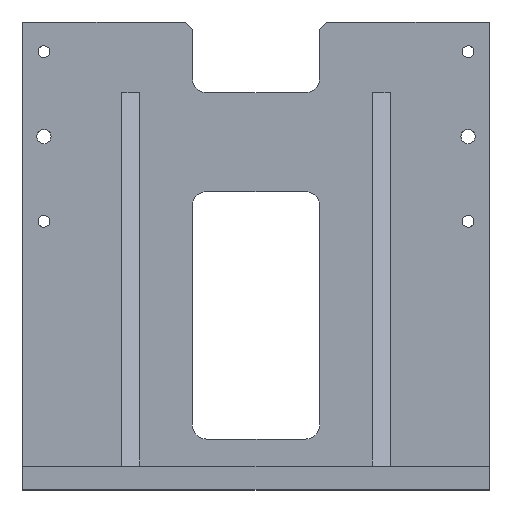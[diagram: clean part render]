
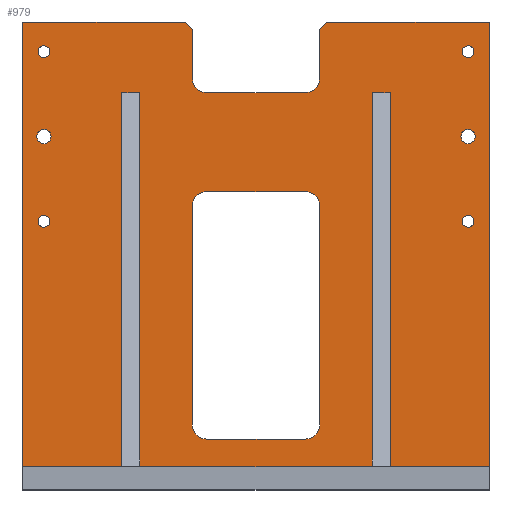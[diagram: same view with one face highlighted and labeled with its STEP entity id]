
A CAD part, top view. The second image highlights one B-rep face of the part: STEP entity #979.
In plain terms, the highlighted planar face has unit normal (0, 0, 1).
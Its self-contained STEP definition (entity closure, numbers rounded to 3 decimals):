
#19=FACE_BOUND($,#149,.T.);
#20=FACE_BOUND($,#150,.T.);
#21=FACE_BOUND($,#151,.T.);
#22=FACE_BOUND($,#152,.T.);
#23=FACE_BOUND($,#153,.T.);
#24=FACE_BOUND($,#154,.T.);
#25=FACE_BOUND($,#155,.T.);
#26=FACE_BOUND($,#156,.T.);
#65=PLANE($,#1047);
#149=EDGE_LOOP($,(#739,#740,#741,#742,#743,#744,#745,#746));
#150=EDGE_LOOP($,(#747,#748,#749,#750,#751,#752,#753,#754,#755,#756,#757,
#758,#759,#760,#761,#762,#763,#764,#765,#766));
#151=EDGE_LOOP($,(#767));
#152=EDGE_LOOP($,(#768));
#153=EDGE_LOOP($,(#769));
#154=EDGE_LOOP($,(#770));
#155=EDGE_LOOP($,(#771));
#156=EDGE_LOOP($,(#772));
#215=LINE($,#1371,#305);
#218=LINE($,#1382,#308);
#223=LINE($,#1395,#313);
#225=LINE($,#1403,#315);
#244=LINE($,#1458,#334);
#248=LINE($,#1464,#338);
#250=LINE($,#1469,#340);
#252=LINE($,#1473,#342);
#256=LINE($,#1484,#346);
#257=LINE($,#1487,#347);
#258=LINE($,#1489,#348);
#259=LINE($,#1491,#349);
#260=LINE($,#1493,#350);
#261=LINE($,#1495,#351);
#262=LINE($,#1497,#352);
#263=LINE($,#1499,#353);
#264=LINE($,#1501,#354);
#265=LINE($,#1503,#355);
#266=LINE($,#1505,#356);
#267=LINE($,#1507,#357);
#268=LINE($,#1509,#358);
#269=LINE($,#1510,#359);
#305=VECTOR($,#1110,155.);
#308=VECTOR($,#1121,70.);
#313=VECTOR($,#1134,70.);
#315=VECTOR($,#1144,155.);
#334=VECTOR($,#1187,7.071);
#338=VECTOR($,#1193,35.);
#340=VECTOR($,#1197,7.071);
#342=VECTOR($,#1201,35.);
#346=VECTOR($,#1215,70.);
#347=VECTOR($,#1218,115.);
#348=VECTOR($,#1219,315.);
#349=VECTOR($,#1220,70.);
#350=VECTOR($,#1221,265.);
#351=VECTOR($,#1222,12.7);
#352=VECTOR($,#1223,265.);
#353=VECTOR($,#1224,164.6);
#354=VECTOR($,#1225,265.);
#355=VECTOR($,#1226,12.7);
#356=VECTOR($,#1227,265.);
#357=VECTOR($,#1228,70.);
#358=VECTOR($,#1229,315.);
#359=VECTOR($,#1230,115.);
#390=CIRCLE($,#1013,10.);
#392=CIRCLE($,#1017,10.);
#394=CIRCLE($,#1021,10.);
#396=CIRCLE($,#1025,10.);
#405=CIRCLE($,#1043,10.);
#406=CIRCLE($,#1045,10.);
#407=CIRCLE($,#1048,5.);
#408=CIRCLE($,#1049,5.);
#409=CIRCLE($,#1050,4.188);
#410=CIRCLE($,#1051,4.188);
#411=CIRCLE($,#1052,4.188);
#412=CIRCLE($,#1053,4.188);
#427=VERTEX_POINT($,#1357);
#428=VERTEX_POINT($,#1359);
#432=VERTEX_POINT($,#1369);
#435=VERTEX_POINT($,#1376);
#436=VERTEX_POINT($,#1378);
#438=VERTEX_POINT($,#1387);
#440=VERTEX_POINT($,#1393);
#442=VERTEX_POINT($,#1399);
#465=VERTEX_POINT($,#1456);
#466=VERTEX_POINT($,#1457);
#467=VERTEX_POINT($,#1462);
#468=VERTEX_POINT($,#1466);
#469=VERTEX_POINT($,#1468);
#470=VERTEX_POINT($,#1472);
#471=VERTEX_POINT($,#1476);
#472=VERTEX_POINT($,#1480);
#473=VERTEX_POINT($,#1486);
#474=VERTEX_POINT($,#1488);
#475=VERTEX_POINT($,#1490);
#476=VERTEX_POINT($,#1492);
#477=VERTEX_POINT($,#1494);
#478=VERTEX_POINT($,#1496);
#479=VERTEX_POINT($,#1498);
#480=VERTEX_POINT($,#1500);
#481=VERTEX_POINT($,#1502);
#482=VERTEX_POINT($,#1504);
#483=VERTEX_POINT($,#1506);
#484=VERTEX_POINT($,#1508);
#485=VERTEX_POINT($,#1511);
#486=VERTEX_POINT($,#1513);
#487=VERTEX_POINT($,#1515);
#488=VERTEX_POINT($,#1517);
#489=VERTEX_POINT($,#1519);
#490=VERTEX_POINT($,#1521);
#519=EDGE_CURVE($,#427,#428,#390,.T.);
#525=EDGE_CURVE($,#427,#432,#215,.T.);
#528=EDGE_CURVE($,#435,#436,#392,.T.);
#530=EDGE_CURVE($,#435,#428,#218,.T.);
#534=EDGE_CURVE($,#438,#432,#394,.T.);
#537=EDGE_CURVE($,#438,#440,#223,.T.);
#540=EDGE_CURVE($,#442,#440,#396,.T.);
#541=EDGE_CURVE($,#442,#436,#225,.T.);
#568=EDGE_CURVE($,#465,#466,#244,.T.);
#572=EDGE_CURVE($,#465,#467,#248,.T.);
#574=EDGE_CURVE($,#468,#469,#250,.T.);
#576=EDGE_CURVE($,#470,#469,#252,.T.);
#578=EDGE_CURVE($,#471,#467,#405,.T.);
#580=EDGE_CURVE($,#470,#472,#406,.T.);
#582=EDGE_CURVE($,#471,#472,#256,.T.);
#583=EDGE_CURVE($,#468,#473,#257,.T.);
#584=EDGE_CURVE($,#473,#474,#258,.T.);
#585=EDGE_CURVE($,#474,#475,#259,.T.);
#586=EDGE_CURVE($,#475,#476,#260,.T.);
#587=EDGE_CURVE($,#476,#477,#261,.T.);
#588=EDGE_CURVE($,#477,#478,#262,.T.);
#589=EDGE_CURVE($,#478,#479,#263,.T.);
#590=EDGE_CURVE($,#479,#480,#264,.T.);
#591=EDGE_CURVE($,#480,#481,#265,.T.);
#592=EDGE_CURVE($,#481,#482,#266,.T.);
#593=EDGE_CURVE($,#482,#483,#267,.T.);
#594=EDGE_CURVE($,#483,#484,#268,.T.);
#595=EDGE_CURVE($,#484,#466,#269,.T.);
#596=EDGE_CURVE($,#485,#485,#407,.T.);
#597=EDGE_CURVE($,#486,#486,#408,.T.);
#598=EDGE_CURVE($,#487,#487,#409,.T.);
#599=EDGE_CURVE($,#488,#488,#410,.T.);
#600=EDGE_CURVE($,#489,#489,#411,.T.);
#601=EDGE_CURVE($,#490,#490,#412,.T.);
#739=ORIENTED_EDGE($,*,*,#525,.T.);
#740=ORIENTED_EDGE($,*,*,#534,.F.);
#741=ORIENTED_EDGE($,*,*,#537,.T.);
#742=ORIENTED_EDGE($,*,*,#540,.F.);
#743=ORIENTED_EDGE($,*,*,#541,.T.);
#744=ORIENTED_EDGE($,*,*,#528,.F.);
#745=ORIENTED_EDGE($,*,*,#530,.T.);
#746=ORIENTED_EDGE($,*,*,#519,.F.);
#747=ORIENTED_EDGE($,*,*,#568,.F.);
#748=ORIENTED_EDGE($,*,*,#572,.T.);
#749=ORIENTED_EDGE($,*,*,#578,.F.);
#750=ORIENTED_EDGE($,*,*,#582,.T.);
#751=ORIENTED_EDGE($,*,*,#580,.F.);
#752=ORIENTED_EDGE($,*,*,#576,.T.);
#753=ORIENTED_EDGE($,*,*,#574,.F.);
#754=ORIENTED_EDGE($,*,*,#583,.T.);
#755=ORIENTED_EDGE($,*,*,#584,.T.);
#756=ORIENTED_EDGE($,*,*,#585,.T.);
#757=ORIENTED_EDGE($,*,*,#586,.T.);
#758=ORIENTED_EDGE($,*,*,#587,.T.);
#759=ORIENTED_EDGE($,*,*,#588,.T.);
#760=ORIENTED_EDGE($,*,*,#589,.T.);
#761=ORIENTED_EDGE($,*,*,#590,.T.);
#762=ORIENTED_EDGE($,*,*,#591,.T.);
#763=ORIENTED_EDGE($,*,*,#592,.T.);
#764=ORIENTED_EDGE($,*,*,#593,.T.);
#765=ORIENTED_EDGE($,*,*,#594,.T.);
#766=ORIENTED_EDGE($,*,*,#595,.T.);
#767=ORIENTED_EDGE($,*,*,#596,.T.);
#768=ORIENTED_EDGE($,*,*,#597,.T.);
#769=ORIENTED_EDGE($,*,*,#598,.T.);
#770=ORIENTED_EDGE($,*,*,#599,.T.);
#771=ORIENTED_EDGE($,*,*,#600,.T.);
#772=ORIENTED_EDGE($,*,*,#601,.T.);
#979=ADVANCED_FACE($,(#19,#20,#21,#22,#23,#24,#25,#26),#65,.T.);
#1013=AXIS2_PLACEMENT_3D($,#1360,#1101,#1102);
#1017=AXIS2_PLACEMENT_3D($,#1379,#1116,#1117);
#1021=AXIS2_PLACEMENT_3D($,#1389,#1128,#1129);
#1025=AXIS2_PLACEMENT_3D($,#1401,#1140,#1141);
#1043=AXIS2_PLACEMENT_3D($,#1477,#1205,#1206);
#1045=AXIS2_PLACEMENT_3D($,#1481,#1210,#1211);
#1047=AXIS2_PLACEMENT_3D($,#1485,#1216,#1217);
#1048=AXIS2_PLACEMENT_3D($,#1512,#1231,#1232);
#1049=AXIS2_PLACEMENT_3D($,#1514,#1233,#1234);
#1050=AXIS2_PLACEMENT_3D($,#1516,#1235,#1236);
#1051=AXIS2_PLACEMENT_3D($,#1518,#1237,#1238);
#1052=AXIS2_PLACEMENT_3D($,#1520,#1239,#1240);
#1053=AXIS2_PLACEMENT_3D($,#1522,#1241,#1242);
#1101=DIRECTION('center_axis',(0.,0.,1.));
#1102=DIRECTION('ref_axis',(-0.707,-0.707,0.));
#1110=DIRECTION($,(0.,1.,0.));
#1116=DIRECTION('center_axis',(0.,0.,1.));
#1117=DIRECTION('ref_axis',(0.707,-0.707,0.));
#1121=DIRECTION($,(-1.,0.,0.));
#1128=DIRECTION('center_axis',(0.,0.,1.));
#1129=DIRECTION('ref_axis',(-0.707,0.707,0.));
#1134=DIRECTION($,(1.,0.,0.));
#1140=DIRECTION('center_axis',(0.,0.,1.));
#1141=DIRECTION('ref_axis',(0.707,0.707,0.));
#1144=DIRECTION($,(0.,-1.,0.));
#1187=DIRECTION($,(0.707,0.707,0.));
#1193=DIRECTION($,(0.,-1.,0.));
#1197=DIRECTION($,(0.707,-0.707,0.));
#1201=DIRECTION($,(0.,1.,0.));
#1205=DIRECTION('center_axis',(0.,0.,1.));
#1206=DIRECTION('ref_axis',(0.707,-0.707,0.));
#1210=DIRECTION('center_axis',(0.,0.,1.));
#1211=DIRECTION('ref_axis',(-0.707,-0.707,0.));
#1215=DIRECTION($,(-1.,0.,0.));
#1216=DIRECTION('center_axis',(0.,0.,1.));
#1217=DIRECTION('ref_axis',(1.,0.,0.));
#1218=DIRECTION($,(-1.,0.,0.));
#1219=DIRECTION($,(0.,-1.,0.));
#1220=DIRECTION($,(1.,0.,0.));
#1221=DIRECTION($,(0.,1.,0.));
#1222=DIRECTION($,(1.,0.,0.));
#1223=DIRECTION($,(0.,-1.,0.));
#1224=DIRECTION($,(1.,0.,0.));
#1225=DIRECTION($,(0.,1.,0.));
#1226=DIRECTION($,(1.,0.,0.));
#1227=DIRECTION($,(0.,-1.,0.));
#1228=DIRECTION($,(1.,0.,0.));
#1229=DIRECTION($,(0.,1.,0.));
#1230=DIRECTION($,(-1.,0.,0.));
#1231=DIRECTION('center_axis',(0.,0.,-1.));
#1232=DIRECTION('ref_axis',(-1.,0.,0.));
#1233=DIRECTION('center_axis',(0.,0.,-1.));
#1234=DIRECTION('ref_axis',(-1.,0.,0.));
#1235=DIRECTION('center_axis',(0.,0.,-1.));
#1236=DIRECTION('ref_axis',(-1.,0.,0.));
#1237=DIRECTION('center_axis',(0.,0.,-1.));
#1238=DIRECTION('ref_axis',(-1.,0.,0.));
#1239=DIRECTION('center_axis',(0.,0.,-1.));
#1240=DIRECTION('ref_axis',(-1.,0.,0.));
#1241=DIRECTION('center_axis',(0.,0.,-1.));
#1242=DIRECTION('ref_axis',(-1.,0.,0.));
#1357=CARTESIAN_POINT('',(-45.,-127.5,19.05));
#1359=CARTESIAN_POINT('',(-35.,-137.5,19.05));
#1360=CARTESIAN_POINT('Origin',(-35.,-127.5,19.05));
#1369=CARTESIAN_POINT('',(-45.,27.5,19.05));
#1371=CARTESIAN_POINT($,(-45.,18.75,19.05));
#1376=CARTESIAN_POINT('',(35.,-137.5,19.05));
#1378=CARTESIAN_POINT('',(45.,-127.5,19.05));
#1379=CARTESIAN_POINT('Origin',(35.,-127.5,19.05));
#1382=CARTESIAN_POINT($,(-22.5,-137.5,19.05));
#1387=CARTESIAN_POINT('',(-35.,37.5,19.05));
#1389=CARTESIAN_POINT('Origin',(-35.,27.5,19.05));
#1393=CARTESIAN_POINT('',(35.,37.5,19.05));
#1395=CARTESIAN_POINT($,(22.5,37.5,19.05));
#1399=CARTESIAN_POINT('',(45.,27.5,19.05));
#1401=CARTESIAN_POINT('Origin',(35.,27.5,19.05));
#1403=CARTESIAN_POINT($,(45.,-68.75,19.05));
#1456=CARTESIAN_POINT('',(45.,152.5,19.05));
#1457=CARTESIAN_POINT('',(50.,157.5,19.05));
#1458=CARTESIAN_POINT($,(-3.125,104.375,19.05));
#1462=CARTESIAN_POINT('',(45.,117.5,19.05));
#1464=CARTESIAN_POINT($,(45.,78.75,19.05));
#1466=CARTESIAN_POINT('',(-50.,157.5,19.05));
#1468=CARTESIAN_POINT('',(-45.,152.5,19.05));
#1469=CARTESIAN_POINT($,(3.125,104.375,19.05));
#1472=CARTESIAN_POINT('',(-45.,117.5,19.05));
#1473=CARTESIAN_POINT($,(-45.,53.75,19.05));
#1476=CARTESIAN_POINT('',(35.,107.5,19.05));
#1477=CARTESIAN_POINT('Origin',(35.,117.5,19.05));
#1480=CARTESIAN_POINT('',(-35.,107.5,19.05));
#1481=CARTESIAN_POINT('Origin',(-35.,117.5,19.05));
#1484=CARTESIAN_POINT($,(22.5,107.5,19.05));
#1485=CARTESIAN_POINT('Origin',(0.,0.,
19.05));
#1486=CARTESIAN_POINT('',(-165.,157.5,19.05));
#1487=CARTESIAN_POINT($,(-165.,157.5,19.05));
#1488=CARTESIAN_POINT('',(-165.,-157.5,19.05));
#1489=CARTESIAN_POINT($,(-165.,-157.5,19.05));
#1490=CARTESIAN_POINT('',(-95.,-157.5,19.05));
#1491=CARTESIAN_POINT($,(165.,-157.5,19.05));
#1492=CARTESIAN_POINT('',(-95.,107.5,19.05));
#1493=CARTESIAN_POINT($,(-95.,-24.767,19.05));
#1494=CARTESIAN_POINT('',(-82.3,107.5,19.05));
#1495=CARTESIAN_POINT($,(-47.5,107.5,19.05));
#1496=CARTESIAN_POINT('',(-82.3,-157.5,19.05));
#1497=CARTESIAN_POINT($,(-82.3,-24.767,19.05));
#1498=CARTESIAN_POINT('',(82.3,-157.5,19.05));
#1499=CARTESIAN_POINT($,(165.,-157.5,19.05));
#1500=CARTESIAN_POINT('',(82.3,107.5,19.05));
#1501=CARTESIAN_POINT($,(82.3,-24.767,19.05));
#1502=CARTESIAN_POINT('',(95.,107.5,19.05));
#1503=CARTESIAN_POINT($,(47.5,107.5,19.05));
#1504=CARTESIAN_POINT('',(95.,-157.5,19.05));
#1505=CARTESIAN_POINT($,(95.,-24.767,19.05));
#1506=CARTESIAN_POINT('',(165.,-157.5,19.05));
#1507=CARTESIAN_POINT($,(165.,-157.5,19.05));
#1508=CARTESIAN_POINT('',(165.,157.5,19.05));
#1509=CARTESIAN_POINT($,(165.,157.5,19.05));
#1510=CARTESIAN_POINT($,(-165.,157.5,19.05));
#1511=CARTESIAN_POINT('',(-145.,76.5,19.05));
#1512=CARTESIAN_POINT('Origin',(-150.,76.5,19.05));
#1513=CARTESIAN_POINT('',(155.,76.5,19.05));
#1514=CARTESIAN_POINT('Origin',(150.,76.5,19.05));
#1515=CARTESIAN_POINT('',(-145.812,16.5,19.05));
#1516=CARTESIAN_POINT('Origin',(-150.,16.5,19.05));
#1517=CARTESIAN_POINT('',(154.188,136.5,19.05));
#1518=CARTESIAN_POINT('Origin',(150.,136.5,19.05));
#1519=CARTESIAN_POINT('',(154.188,16.5,19.05));
#1520=CARTESIAN_POINT('Origin',(150.,16.5,19.05));
#1521=CARTESIAN_POINT('',(-145.812,136.5,19.05));
#1522=CARTESIAN_POINT('Origin',(-150.,136.5,19.05));
